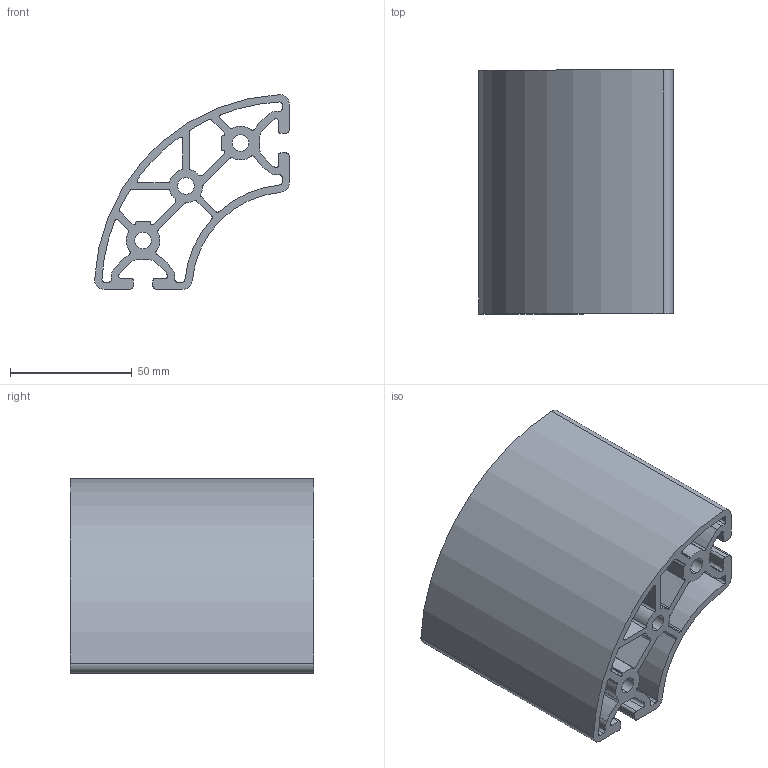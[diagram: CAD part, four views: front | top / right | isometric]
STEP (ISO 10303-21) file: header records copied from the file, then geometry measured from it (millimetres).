
FILE_DESCRIPTION (( 'STEP AP203' ), '1' );
FILE_NAME ('0108PR40-80-90L.STEP', '2024-02-29T13:06:47', ( 'Windows-Benutzer' ), ( '' ), 'SwSTEP 2.0', 'SolidWorks 2023', '' );
FILE_SCHEMA (( 'CONFIG_CONTROL_DESIGN' ));
Length unit declared in the file: millimetre
Products named in the file (1): 0108PR40-80-90L
Bounding box: 79.89 x 100 x 79.89 mm (x, y, z)
Volume: 153329.1 mm3; surface area: 91624.6 mm2
Topology: 1 solids, 1 shells, 152 faces, 450 edges, 300 vertices
Faces by surface type: cylinder 108, plane 44
Entity records: 5307 total; most frequent: DIRECTION 972, CARTESIAN_POINT 903, ORIENTED_EDGE 900, EDGE_CURVE 450, AXIS2_PLACEMENT_3D 369, VERTEX_POINT 300, VECTOR 234, LINE 234
